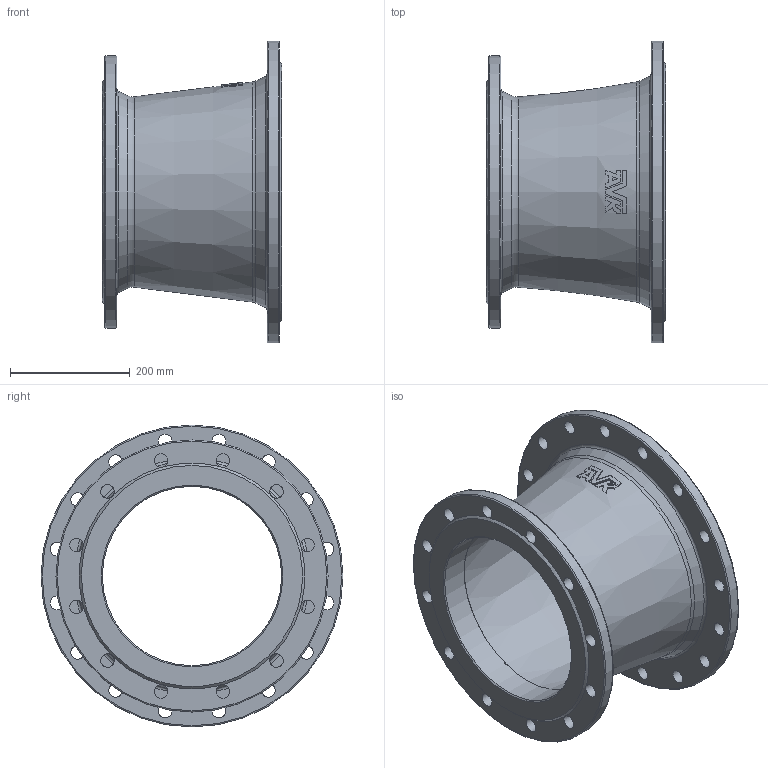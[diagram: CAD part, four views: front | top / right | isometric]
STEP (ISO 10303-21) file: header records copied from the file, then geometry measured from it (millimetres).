
FILE_DESCRIPTION (( 'STEP AP203' ), '1' );
FILE_NAME ('O_712_2210_DN350_DN300_0X_REV01.step', '2024-08-08T06:07:47', ( '' ), ( '' ), 'SwSTEP 2.0', 'SolidWorks 2022', '' );
FILE_SCHEMA (( 'CONFIG_CONTROL_DESIGN' ));
Length unit declared in the file: millimetre
Products named in the file (1): O_712_2210_DN350_DN300_0X_REV01
Bounding box: 300 x 505 x 505 mm (x, y, z)
Volume: 6786800.1 mm3; surface area: 1011726.4 mm2
Topology: 1 solids, 1 shells, 97 faces, 318 edges, 203 vertices
Faces by surface type: plane 41, cylinder 34, cone 12, torus 10
Full cylindrical faces by diameter (mm): 23 x28, 300 x1, 350 x1, 455 x1, 505 x1
Entity records: 3346 total; most frequent: CARTESIAN_POINT 837, DIRECTION 517, ORIENTED_EDGE 466, AXIS2_PLACEMENT_3D 240, EDGE_CURVE 233, EDGE_LOOP 185, VERTEX_POINT 168, CIRCLE 142
